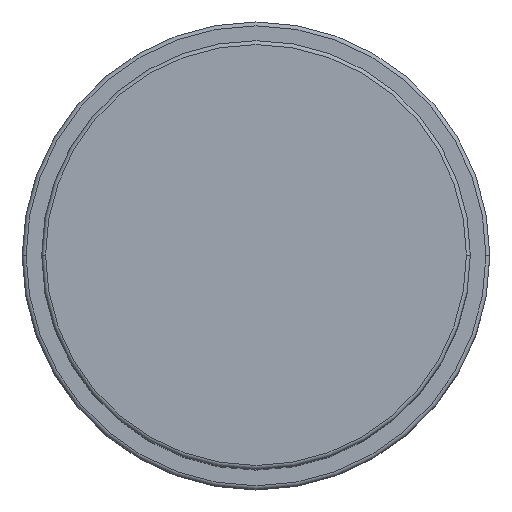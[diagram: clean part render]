
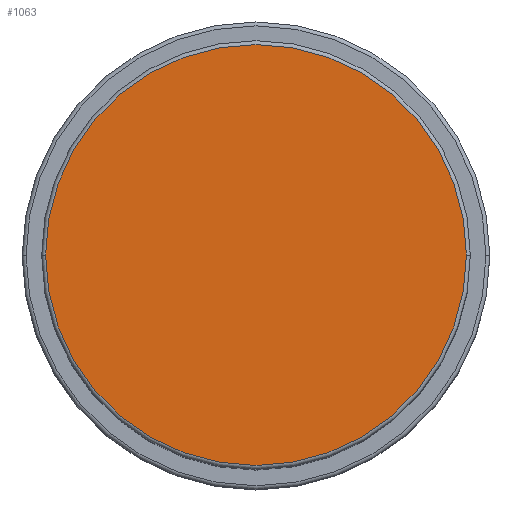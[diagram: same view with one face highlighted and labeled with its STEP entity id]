
A CAD part, top view. The second image highlights one B-rep face of the part: STEP entity #1063.
In plain terms, the highlighted planar face has unit normal (0, 0, 1).
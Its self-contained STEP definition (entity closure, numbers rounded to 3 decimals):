
#116 = CARTESIAN_POINT ( 'NONE',  ( 0., 0., 86. ) ) ;
#151 = CARTESIAN_POINT ( 'NONE',  ( -27., 0., 86. ) ) ;
#195 = AXIS2_PLACEMENT_3D ( 'NONE', #420, #1430, #297 ) ;
#213 = AXIS2_PLACEMENT_3D ( 'NONE', #116, #500, #1132 ) ;
#297 = DIRECTION ( 'NONE',  ( 1., 0., 0. ) ) ;
#329 = VERTEX_POINT ( 'NONE', #1146 ) ;
#347 = DIRECTION ( 'NONE',  ( 0., 0., 1. ) ) ;
#420 = CARTESIAN_POINT ( 'NONE',  ( 0., 0., 86. ) ) ;
#488 = FACE_OUTER_BOUND ( 'NONE', #748, .T. ) ;
#500 = DIRECTION ( 'NONE',  ( 0., 0., 1. ) ) ;
#748 = EDGE_LOOP ( 'NONE', ( #999, #1333 ) ) ;
#753 = EDGE_CURVE ( 'NONE', #329, #1595, #1106, .T. ) ;
#794 = CIRCLE ( 'NONE', #195, 27. ) ;
#797 = PLANE ( 'NONE',  #1614 ) ;
#804 = CARTESIAN_POINT ( 'NONE',  ( 0., 0., 86. ) ) ;
#999 = ORIENTED_EDGE ( 'NONE', *, *, #753, .T. ) ;
#1063 = ADVANCED_FACE ( 'NONE', ( #488 ), #797, .T. ) ;
#1106 = CIRCLE ( 'NONE', #213, 27. ) ;
#1132 = DIRECTION ( 'NONE',  ( 1., 0., 0. ) ) ;
#1146 = CARTESIAN_POINT ( 'NONE',  ( 27., 0., 86. ) ) ;
#1333 = ORIENTED_EDGE ( 'NONE', *, *, #1368, .T. ) ;
#1348 = DIRECTION ( 'NONE',  ( 1., 0., 0. ) ) ;
#1368 = EDGE_CURVE ( 'NONE', #1595, #329, #794, .T. ) ;
#1430 = DIRECTION ( 'NONE',  ( 0., 0., 1. ) ) ;
#1595 = VERTEX_POINT ( 'NONE', #151 ) ;
#1614 = AXIS2_PLACEMENT_3D ( 'NONE', #804, #347, #1348 ) ;
